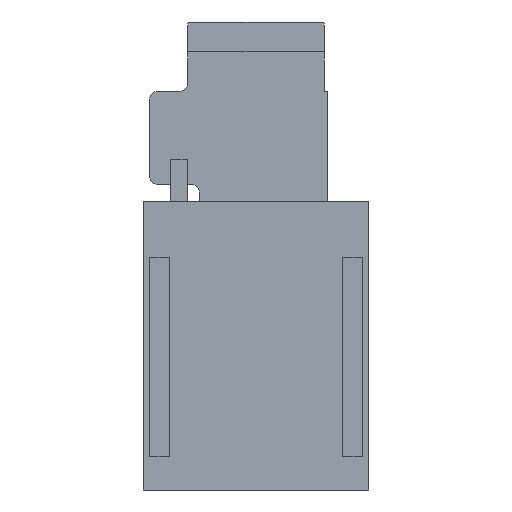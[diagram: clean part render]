
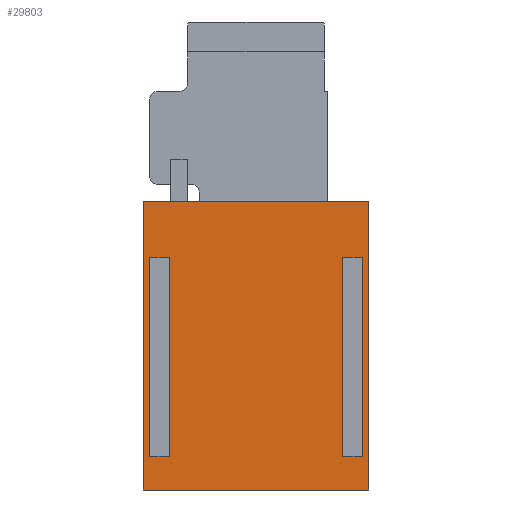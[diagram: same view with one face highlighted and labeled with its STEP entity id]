
A CAD part, front view. The second image highlights one B-rep face of the part: STEP entity #29803.
In plain terms, the highlighted planar face has unit normal (0, -1, 0).
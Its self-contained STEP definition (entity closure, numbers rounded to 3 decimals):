
#101 = VECTOR ( 'NONE', #6297, 1000. ) ;
#571 = FACE_OUTER_BOUND ( 'NONE', #27183, .T. ) ;
#1739 = CARTESIAN_POINT ( 'NONE',  ( 0., -2.6, 0. ) ) ;
#2045 = CARTESIAN_POINT ( 'NONE',  ( 16.915, -2.6, -21.71 ) ) ;
#2262 = CARTESIAN_POINT ( 'NONE',  ( 16.915, -2.6, 21.71 ) ) ;
#4137 = LINE ( 'NONE', #30158, #25373 ) ;
#4206 = CARTESIAN_POINT ( 'NONE',  ( -16.915, -2.6, -21.71 ) ) ;
#5260 = VERTEX_POINT ( 'NONE', #40385 ) ;
#6297 = DIRECTION ( 'NONE',  ( 0., 0., 1. ) ) ;
#6508 = VECTOR ( 'NONE', #32309, 1000. ) ;
#6654 = PLANE ( 'NONE',  #35111 ) ;
#8021 = VECTOR ( 'NONE', #25079, 1000. ) ;
#8672 = VERTEX_POINT ( 'NONE', #2262 ) ;
#9806 = ORIENTED_EDGE ( 'NONE', *, *, #32051, .T. ) ;
#12300 = ORIENTED_EDGE ( 'NONE', *, *, #24839, .F. ) ;
#14329 = DIRECTION ( 'NONE',  ( 1., 0., 0. ) ) ;
#15632 = LINE ( 'NONE', #40335, #101 ) ;
#16116 = CARTESIAN_POINT ( 'NONE',  ( 16.915, -2.6, -21.71 ) ) ;
#16564 = ORIENTED_EDGE ( 'NONE', *, *, #26409, .T. ) ;
#17192 = DIRECTION ( 'NONE',  ( 0., 0., -1. ) ) ;
#18243 = ORIENTED_EDGE ( 'NONE', *, *, #21836, .F. ) ;
#20421 = CARTESIAN_POINT ( 'NONE',  ( -16.915, -2.6, -21.71 ) ) ;
#21836 = EDGE_CURVE ( 'NONE', #38996, #5260, #15632, .T. ) ;
#22601 = VERTEX_POINT ( 'NONE', #2045 ) ;
#24839 = EDGE_CURVE ( 'NONE', #5260, #8672, #4137, .T. ) ;
#25079 = DIRECTION ( 'NONE',  ( 0., 0., 1. ) ) ;
#25373 = VECTOR ( 'NONE', #14329, 1000. ) ;
#26409 = EDGE_CURVE ( 'NONE', #38996, #22601, #26499, .T. ) ;
#26499 = LINE ( 'NONE', #4206, #6508 ) ;
#27183 = EDGE_LOOP ( 'NONE', ( #16564, #9806, #12300, #18243 ) ) ;
#29803 = ADVANCED_FACE ( 'NONE', ( #571 ), #6654, .T. ) ;
#30158 = CARTESIAN_POINT ( 'NONE',  ( -16.915, -2.6, 21.71 ) ) ;
#32051 = EDGE_CURVE ( 'NONE', #22601, #8672, #40799, .T. ) ;
#32227 = DIRECTION ( 'NONE',  ( 0., -1., 0. ) ) ;
#32309 = DIRECTION ( 'NONE',  ( 1., 0., 0. ) ) ;
#35111 = AXIS2_PLACEMENT_3D ( 'NONE', #1739, #32227, #17192 ) ;
#38996 = VERTEX_POINT ( 'NONE', #20421 ) ;
#40335 = CARTESIAN_POINT ( 'NONE',  ( -16.915, -2.6, -21.71 ) ) ;
#40385 = CARTESIAN_POINT ( 'NONE',  ( -16.915, -2.6, 21.71 ) ) ;
#40799 = LINE ( 'NONE', #16116, #8021 ) ;
